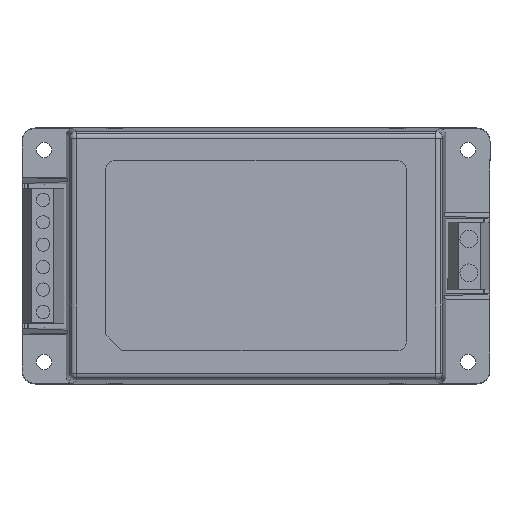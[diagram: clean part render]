
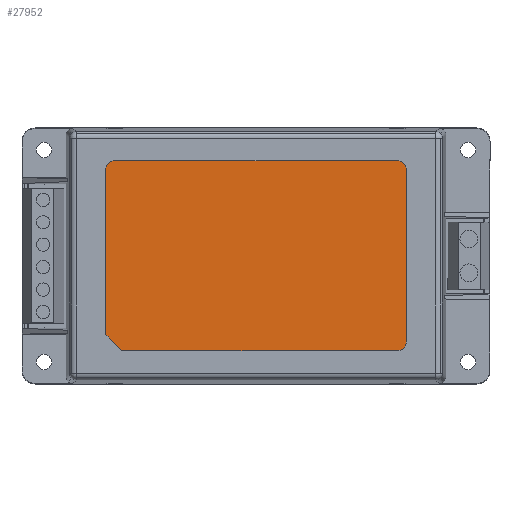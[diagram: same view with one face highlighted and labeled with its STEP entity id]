
A CAD part, top view. The second image highlights one B-rep face of the part: STEP entity #27952.
In plain terms, the highlighted planar face has unit normal (0, 0, 1) as drawn and (0, 0, -1) by its records, which use the part's own axes.
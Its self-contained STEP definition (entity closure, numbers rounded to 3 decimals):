
#27588=CARTESIAN_POINT('',(86.414,49.914,0.1));
#27589=VERTEX_POINT('',#27588);
#27605=CARTESIAN_POINT('',(87.,48.5,0.1));
#27606=VERTEX_POINT('',#27605);
#27613=CARTESIAN_POINT('',(85.,48.5,0.1));
#27614=DIRECTION('',(0.0,0.0,-1.));
#27615=DIRECTION('',(0.707,0.707,0.0));
#27616=AXIS2_PLACEMENT_3D('',#27613,#27614,#27615);
#27617=CIRCLE('',#27616,2.);
#27618=EDGE_CURVE('',#27589,#27606,#27617,.T.);
#27630=CARTESIAN_POINT('',(19.586,8.086,0.1));
#27631=VERTEX_POINT('',#27630);
#27647=CARTESIAN_POINT('',(19.,9.5,0.1));
#27648=VERTEX_POINT('',#27647);
#27655=CARTESIAN_POINT('',(21.,9.5,0.1));
#27656=DIRECTION('',(0.0,0.0,-1.));
#27657=DIRECTION('',(-0.707,-0.707,0.0));
#27658=AXIS2_PLACEMENT_3D('',#27655,#27656,#27657);
#27659=CIRCLE('',#27658,2.);
#27660=EDGE_CURVE('',#27631,#27648,#27659,.T.);
#27672=CARTESIAN_POINT('',(19.586,49.914,0.1));
#27673=VERTEX_POINT('',#27672);
#27689=CARTESIAN_POINT('',(21.,50.5,0.1));
#27690=VERTEX_POINT('',#27689);
#27697=CARTESIAN_POINT('',(21.,48.5,0.1));
#27698=DIRECTION('',(0.0,0.0,-1.0));
#27699=DIRECTION('',(-0.707,0.707,0.0));
#27700=AXIS2_PLACEMENT_3D('',#27697,#27698,#27699);
#27701=CIRCLE('',#27700,2.);
#27702=EDGE_CURVE('',#27673,#27690,#27701,.T.);
#27712=CARTESIAN_POINT('',(87.0,11.1,0.1));
#27713=VERTEX_POINT('',#27712);
#27714=CARTESIAN_POINT('',(83.4,7.5,0.1));
#27715=VERTEX_POINT('',#27714);
#27716=CARTESIAN_POINT('',(87.0,11.1,0.1));
#27717=DIRECTION('',(-0.707,-0.707,0.0));
#27718=VECTOR('',#27717,5.091);
#27719=LINE('',#27716,#27718);
#27720=EDGE_CURVE('',#27713,#27715,#27719,.T.);
#27761=CARTESIAN_POINT('',(21.,7.5,0.1));
#27762=VERTEX_POINT('',#27761);
#27769=CARTESIAN_POINT('',(83.4,7.5,0.1));
#27770=DIRECTION('',(-1.0,0.0,0.0));
#27771=VECTOR('',#27770,62.4);
#27772=LINE('',#27769,#27771);
#27773=EDGE_CURVE('',#27715,#27762,#27772,.T.);
#27784=CARTESIAN_POINT('',(19.,48.5,0.1));
#27785=VERTEX_POINT('',#27784);
#27786=CARTESIAN_POINT('',(21.,48.5,0.1));
#27787=DIRECTION('',(0.0,0.0,-1.0));
#27788=DIRECTION('',(-0.707,0.707,0.0));
#27789=AXIS2_PLACEMENT_3D('',#27786,#27787,#27788);
#27790=CIRCLE('',#27789,2.);
#27791=EDGE_CURVE('',#27785,#27673,#27790,.T.);
#27825=CARTESIAN_POINT('',(85.,50.5,0.1));
#27826=VERTEX_POINT('',#27825);
#27833=CARTESIAN_POINT('',(21.,50.5,0.1));
#27834=DIRECTION('',(1.0,0.0,0.0));
#27835=VECTOR('',#27834,64.0);
#27836=LINE('',#27833,#27835);
#27837=EDGE_CURVE('',#27690,#27826,#27836,.T.);
#27848=CARTESIAN_POINT('',(21.,9.5,0.1));
#27849=DIRECTION('',(0.0,0.0,-1.));
#27850=DIRECTION('',(-0.707,-0.707,0.0));
#27851=AXIS2_PLACEMENT_3D('',#27848,#27849,#27850);
#27852=CIRCLE('',#27851,2.);
#27853=EDGE_CURVE('',#27762,#27631,#27852,.T.);
#27872=CARTESIAN_POINT('',(19.,9.5,0.1));
#27873=DIRECTION('',(0.0,1.0,0.0));
#27874=VECTOR('',#27873,39.0);
#27875=LINE('',#27872,#27874);
#27876=EDGE_CURVE('',#27648,#27785,#27875,.T.);
#27894=CARTESIAN_POINT('',(85.,48.5,0.1));
#27895=DIRECTION('',(0.0,0.0,-1.));
#27896=DIRECTION('',(0.707,0.707,0.0));
#27897=AXIS2_PLACEMENT_3D('',#27894,#27895,#27896);
#27898=CIRCLE('',#27897,2.);
#27899=EDGE_CURVE('',#27826,#27589,#27898,.T.);
#27918=CARTESIAN_POINT('',(87.,48.5,0.1));
#27919=DIRECTION('',(0.0,-1.0,0.0));
#27920=VECTOR('',#27919,37.4);
#27921=LINE('',#27918,#27920);
#27922=EDGE_CURVE('',#27606,#27713,#27921,.T.);
#27934=CARTESIAN_POINT('',(53.,29.,0.1));
#27935=DIRECTION('',(0.0,0.0,1.0));
#27936=DIRECTION('',(1.0,0.0,0.0));
#27937=AXIS2_PLACEMENT_3D('',#27934,#27935,#27936);
#27938=PLANE('',#27937);
#27939=ORIENTED_EDGE('',*,*,#27720,.T.);
#27940=ORIENTED_EDGE('',*,*,#27773,.T.);
#27941=ORIENTED_EDGE('',*,*,#27853,.T.);
#27942=ORIENTED_EDGE('',*,*,#27660,.T.);
#27943=ORIENTED_EDGE('',*,*,#27876,.T.);
#27944=ORIENTED_EDGE('',*,*,#27791,.T.);
#27945=ORIENTED_EDGE('',*,*,#27702,.T.);
#27946=ORIENTED_EDGE('',*,*,#27837,.T.);
#27947=ORIENTED_EDGE('',*,*,#27899,.T.);
#27948=ORIENTED_EDGE('',*,*,#27618,.T.);
#27949=ORIENTED_EDGE('',*,*,#27922,.T.);
#27950=EDGE_LOOP('',(#27939,#27940,#27941,#27942,#27943,#27944,#27945,#27946,#27947,#27948,#27949));
#27951=FACE_OUTER_BOUND('',#27950,.T.);
#27952=ADVANCED_FACE('',(#27951),#27938,.F.);
